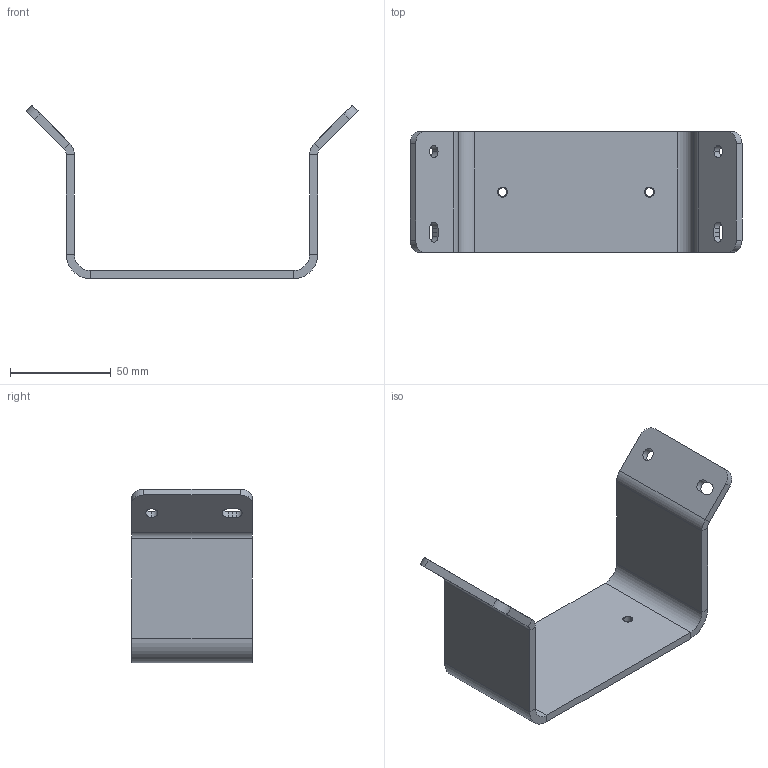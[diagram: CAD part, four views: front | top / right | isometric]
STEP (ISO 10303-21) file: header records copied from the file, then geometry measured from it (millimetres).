
FILE_DESCRIPTION((''),'2;1');
FILE_NAME('2027299','2018-10-11T',('rink'),(''),'PRO/ENGINEER BY PARAMETRIC TECHNOLOGY CORPORATION, 2015110','PRO/ENGINEER BY PARAMETRIC TECHNOLOGY CORPORATION, 2015110','');
FILE_SCHEMA(('AUTOMOTIVE_DESIGN { 1 0 10303 214 1 1 1 1 }'));
Length unit declared in the file: millimetre
Products named in the file (1): 2027299
Bounding box: 165.08 x 60 x 86.21 mm (x, y, z)
Volume: 69821.8 mm3; surface area: 38303.2 mm2
Topology: 1 solids, 3 shells, 66 faces, 160 edges, 96 vertices
Faces by surface type: plane 38, cylinder 28
Entity records: 2858 total; most frequent: DIRECTION 350, CARTESIAN_POINT 325, ORIENTED_EDGE 312, PRESENTATION_STYLE_ASSIGNMENT 163, STYLED_ITEM 163, CURVE_STYLE 160, EDGE_CURVE 160, AXIS2_PLACEMENT_3D 123
